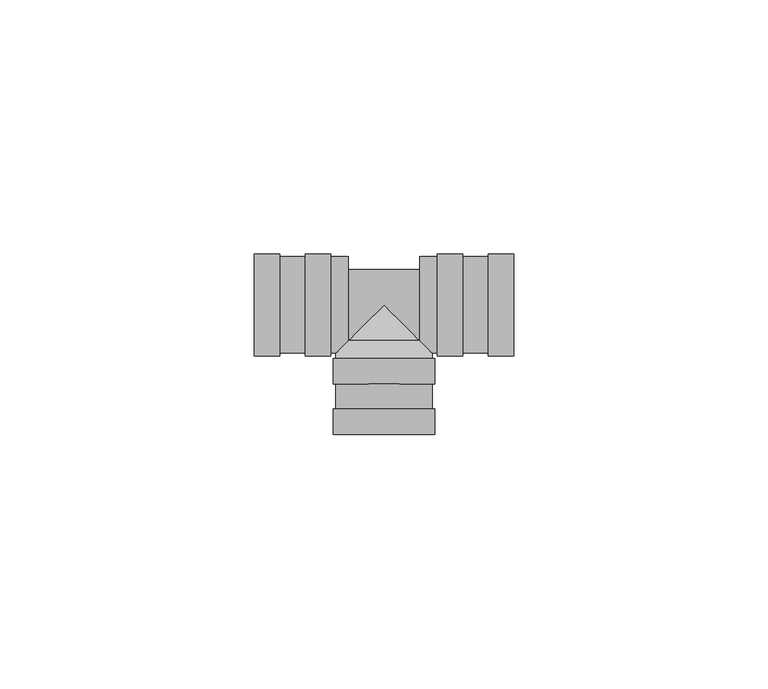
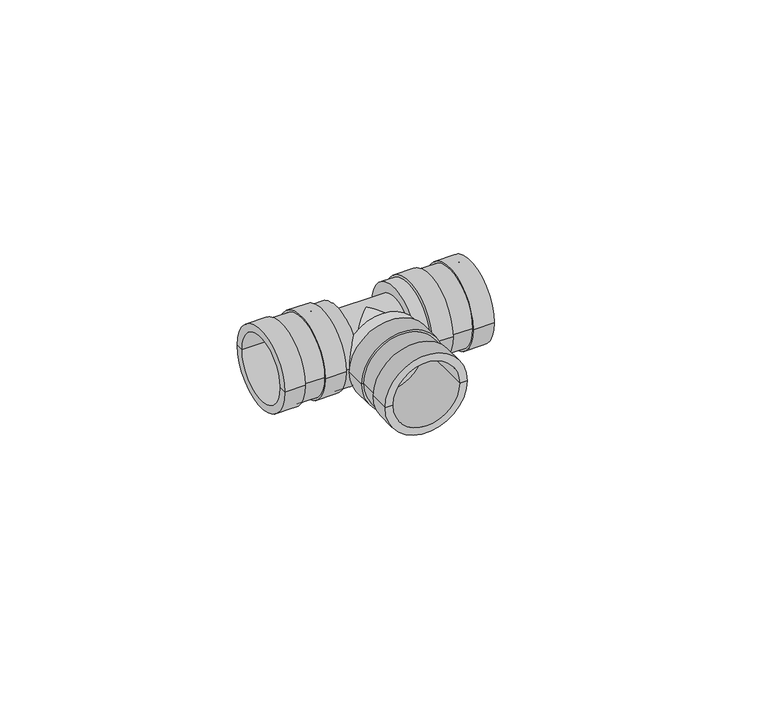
"""IFC4 building model written with IfcOpenShell, lengths in millimetres: pipe fitting geometry, Astra - Tê - KT : Astra - Tê - KT."""

import ifcopenshell
import ifcopenshell.guid

model = None  # the IFC model being written
_history = None  # IfcOwnerHistory: only IFC2X3 demands one
_inside = {}  # id of a spatial element -> (the spatial element, [elements in it])
_under = {}  # id of a project, library or spatial element -> (it, [spatial elements below it])
_declared = {}  # id of a project -> (the project, [libraries it declares])
_typed = {}  # id of a type object -> (the type object, [elements of that type])
_made_of = {}  # id of a material, layer set ... -> (it, [elements and type objects made of it])


def new_model(schema):
    """Start an empty IFC model of exactly this schema.

    Asked for "IFC4X3", IfcOpenShell would pick the latest addendum, in which some entities
    have other attributes; the version numbers below select the first issue.
    IFC2X3 requires an IfcOwnerHistory on every rooted entity: one is made here for all.
    """
    global model, _history
    if schema == "IFC4X3":
        model = ifcopenshell.file(schema_version=(4, 3, 0, 0))
    else:
        model = ifcopenshell.file(schema=schema)
    _inside.clear()
    _under.clear()
    _declared.clear()
    _typed.clear()
    _made_of.clear()
    _history = None
    if model.schema == "IFC2X3":
        org = make("IfcOrganization", Name="unknown")
        user = make(
            "IfcPersonAndOrganization",
            ThePerson=make("IfcPerson", FamilyName="unknown"),
            TheOrganization=org,
        )
        app = make(
            "IfcApplication",
            ApplicationDeveloper=org,
            Version="unknown",
            ApplicationFullName="unknown",
            ApplicationIdentifier="unknown",
        )
        _history = make(
            "IfcOwnerHistory",
            OwningUser=user,
            OwningApplication=app,
            ChangeAction="ADDED",
            CreationDate=0,
        )
    return model


def make(cls, **values):
    """One entity of the class cls with the attributes given. An attribute that is None is left unset."""
    return model.create_entity(
        cls, **{name: value for name, value in values.items() if value is not None}
    )


def rooted(cls, **values):
    """An entity with a GlobalId (a new one), such as an element, a storey or a relation."""
    return make(cls, GlobalId=ifcopenshell.guid.new(), OwnerHistory=_history, **values)


def si_unit(unit_type, name, prefix=None):
    """IfcSIUnit, for example si_unit("LENGTHUNIT", "METRE", prefix="MILLI")."""
    return make("IfcSIUnit", UnitType=unit_type, Prefix=prefix, Name=name)


def assignment(units):
    """IfcUnitAssignment: the units of a project."""
    return None if units is None else make("IfcUnitAssignment", Units=units)


def point(xyz):
    """IfcCartesianPoint."""
    return None if xyz is None else make("IfcCartesianPoint", Coordinates=xyz)


def direction(xyz):
    """IfcDirection."""
    return None if xyz is None else make("IfcDirection", DirectionRatios=xyz)


def frame(location, z_axis=None, x_axis=None):
    """IfcAxis2Placement3D, a coordinate frame: its origin and axes. An axis left out is left unset."""
    return make(
        "IfcAxis2Placement3D",
        Location=point(location),
        Axis=direction(z_axis),
        RefDirection=direction(x_axis),
    )


def origin():
    """The frame at (0, 0, 0) with its axes left unset."""
    return frame((0.0, 0.0, 0.0))


def place(relative_to, where):
    """IfcLocalPlacement: puts the frame where relative to a parent placement (None: the world)."""
    return make(
        "IfcLocalPlacement", PlacementRelTo=relative_to, RelativePlacement=where
    )


def context(
    kind, dimensions, precision=None, world=None, true_north=None, identifier=None
):
    """IfcGeometricRepresentationContext, for example the 3D "Model" context."""
    return make(
        "IfcGeometricRepresentationContext",
        ContextIdentifier=identifier,
        ContextType=kind,
        CoordinateSpaceDimension=dimensions,
        Precision=precision,
        WorldCoordinateSystem=world,
        TrueNorth=true_north,
    )


def project(units=None, contexts=None):
    """IfcProject with its units and contexts."""
    return rooted(
        "IfcProject",
        Name="project",
        RepresentationContexts=contexts,
        UnitsInContext=assignment(units),
    )


def spatial(cls, under=None, at=None, **own):
    """A site, building, storey or space (cls), placed at a placement, below another one or the project."""
    s = rooted(cls, ObjectPlacement=at, **own)
    if under is not None:
        _under.setdefault(under.id(), (under, []))[1].append(s)
    return s


def polyline(points):
    """IfcPolyline through the points."""
    return make("IfcPolyline", Points=[point(p) for p in points])


def circle_curve(where, radius):
    """IfcCircle in the frame where."""
    return make("IfcCircle", Position=where, Radius=radius)


def ellipse_curve(where, semi_axis1, semi_axis2):
    """IfcEllipse in the frame where."""
    return make(
        "IfcEllipse", Position=where, SemiAxis1=semi_axis1, SemiAxis2=semi_axis2
    )


def shape(context_of_items, identifier, shape_type, items):
    """IfcShapeRepresentation: the items that make up one representation, for example the "Body"."""
    return make(
        "IfcShapeRepresentation",
        ContextOfItems=context_of_items,
        RepresentationIdentifier=identifier,
        RepresentationType=shape_type,
        Items=items,
    )


def source(mapping_origin, context_of_items, identifier, shape_type, items):
    """IfcRepresentationMap: a shape defined once, which mapped items show again and again."""
    return make(
        "IfcRepresentationMap",
        MappingOrigin=mapping_origin,
        MappedRepresentation=shape(context_of_items, identifier, shape_type, items),
    )


def transform(
    local_origin,
    x_axis=None,
    y_axis=None,
    z_axis=None,
    scale=None,
    scale2=None,
    scale3=None,
    uniform=True,
):
    """IfcCartesianTransformationOperator3D, or its non-uniform kind. x_axis, y_axis, z_axis: its Axis1, 2, 3."""
    if uniform:
        return make(
            "IfcCartesianTransformationOperator3D",
            Axis1=direction(x_axis),
            Axis2=direction(y_axis),
            LocalOrigin=point(local_origin),
            Scale=scale,
            Axis3=direction(z_axis),
        )
    return make(
        "IfcCartesianTransformationOperator3DnonUniform",
        Axis1=direction(x_axis),
        Axis2=direction(y_axis),
        LocalOrigin=point(local_origin),
        Scale=scale,
        Axis3=direction(z_axis),
        Scale2=scale2,
        Scale3=scale3,
    )


def mapped(mapping_source, mapping_target):
    """IfcMappedItem: shows the shape of a source again, moved by a transform."""
    return make(
        "IfcMappedItem", MappingSource=mapping_source, MappingTarget=mapping_target
    )


def made_of(thing, what):
    """Note that an element or type object is made of a material, layer set ...; save() writes the relation."""
    if what is not None:
        _made_of.setdefault(what.id(), (what, []))[1].append(thing)
    return thing


def element(
    cls,
    number,
    at=None,
    inside=None,
    cuts=None,
    type_object=None,
    material=None,
    context=None,
    identifier="Body",
    shape_type=None,
    held_by="IfcProductDefinitionShape",
    body=None,
    shapes=None,
    **own,
):
    """One element of the class cls, such as IfcWall. Its Tag is "e" and its number.

    at: its placement. inside: the storey or other place that contains it. cuts: it is an
    opening in that element (IfcRelVoidsElement). A single representation is given by context,
    identifier, shape_type and body (its items); several are given by shapes. held_by: the class
    of the entity that holds the representations. save() writes the other relations.
    """
    e = rooted(cls, Tag="e%d" % number, ObjectPlacement=at, **own)
    if body is not None:
        shapes = [shape(context, identifier, shape_type, body)]
    if shapes is not None:
        e.Representation = make(held_by, Representations=shapes)
    if inside is not None:
        _inside.setdefault(inside.id(), (inside, []))[1].append(e)
    if cuts is not None:
        rooted(
            "IfcRelVoidsElement", RelatingBuildingElement=cuts, RelatedOpeningElement=e
        )
    if type_object is not None:
        _typed.setdefault(type_object.id(), (type_object, []))[1].append(e)
    return made_of(e, material)


def aggregate(whole, parts):
    """IfcRelAggregates: a whole, such as a stair, and the parts it consists of."""
    return rooted("IfcRelAggregates", RelatingObject=whole, RelatedObjects=parts)


def save(model, path):
    """Write the relations noted so far, then the file.

    IfcRelAggregates (storeys below a building ...), IfcRelContainedInSpatialStructure (elements
    in a storey), IfcRelDefinesByType, IfcRelAssociatesMaterial and IfcRelDeclares: one each for
    every whole, place, type object, material and project.
    """
    for whole, parts in _under.values():
        aggregate(whole, parts)
    for where, things in _inside.values():
        rooted(
            "IfcRelContainedInSpatialStructure",
            RelatedElements=things,
            RelatingStructure=where,
        )
    for kind, things in _typed.values():
        rooted("IfcRelDefinesByType", RelatedObjects=things, RelatingType=kind)
    for what, things in _made_of.values():
        rooted("IfcRelAssociatesMaterial", RelatedObjects=things, RelatingMaterial=what)
    for by, libraries in _declared.values():
        rooted("IfcRelDeclares", RelatingContext=by, RelatedDefinitions=libraries)
    model.write(path)


def plane_surface(at):
    """IfcPlane: the flat surface through the origin of the frame at, square to its z axis."""
    return make("IfcPlane", Position=at)


def cylinder_surface(at, radius):
    """IfcCylindricalSurface: all points at the distance radius from the z axis of the frame at."""
    return make("IfcCylindricalSurface", Position=at, Radius=radius)


def revolved_surface(curve, axis_point, axis_direction):
    """IfcSurfaceOfRevolution: the curve turned about the line through axis_point along axis_direction."""
    return make(
        "IfcSurfaceOfRevolution",
        SweptCurve=make("IfcArbitraryOpenProfileDef", ProfileType="CURVE", Curve=curve),
        AxisPosition=make("IfcAxis1Placement", Location=point(axis_point), Axis=direction(axis_direction)),
    )


def advanced_brep(points, edges, surfaces, faces):
    """IfcAdvancedBrep: a solid bounded by faces that lie on surfaces and meet in shared edges.

    An edge is (start, end): straight between two places in points (the first is 0);
    or (start, end, curve); or (start, end, curve, False) where it runs against its curve.
    A face is (place in surfaces, loops), or (place, loops, False) where it looks against
    its surface's normal. A loop lists edges by number (the first is 1), with a minus sign
    where the edge is run from its end to its start. The first loop is the outer one.
    """
    corners = [point(p) for p in points]
    vertices = [make("IfcVertexPoint", VertexGeometry=c) for c in corners]
    made = []
    for start, end, *more in edges:
        made.append(
            make(
                "IfcEdgeCurve",
                EdgeStart=vertices[start],
                EdgeEnd=vertices[end],
                EdgeGeometry=more[0] if more else make("IfcPolyline", Points=[corners[start], corners[end]]),
                SameSense=more[1] if len(more) > 1 else True,
            )
        )
    hull = []
    for where, loops, *sense in faces:
        bounds = []
        for j, loop in enumerate(loops):
            ring = [make("IfcOrientedEdge", EdgeElement=made[abs(k) - 1], Orientation=k > 0) for k in loop]
            bounds.append(
                make(
                    "IfcFaceOuterBound" if j == 0 else "IfcFaceBound",
                    Bound=make("IfcEdgeLoop", EdgeList=ring),
                    Orientation=True,
                )
            )
        hull.append(make("IfcAdvancedFace", Bounds=bounds, FaceSurface=surfaces[where], SameSense=sense[0] if sense else True))
    return make("IfcAdvancedBrep", Outer=make("IfcClosedShell", CfsFaces=hull))


def pipe_fitting_e5ea418e(model_context):
    return source(origin(), model_context, "Body", "AdvancedBrep", [
        advanced_brep(
        [(-25.5, -8.15, 0.0), (-25.5, 8.15, 0.0), (-25.5, 10.0, 0.0), (-25.5, -10.0, 0.0), (-10.5, -8.15, 0.0), (-10.5, 8.15, 0.0), (-10.5, -10.0, 0.0), (-10.5, 10.0, 0.0), (-20.5, 10.0, 0.0), (-20.5, -10.0, 0.0), (-15.5, -10.0, 0.0), (-15.5, 10.0, 0.0), (-20.5, 9.5, 0.0), (-20.5, -9.5, 0.0), (-15.5, 9.5, 0.0), (-15.5, -9.5, 0.0)],
        [
            (0, 1, circle_curve(frame((-25.5, 0.0, 0.0), z_axis=(1.0, 0.0, 0.0), x_axis=(0.0, 1.0, 0.0)), 8.15)),
            (1, 2),
            (2, 3, circle_curve(frame((-25.5, 0.0, 0.0), z_axis=(-1.0, 0.0, 0.0), x_axis=(0.0, 1.0, 0.0)), 10.0)),
            (3, 0),
            (1, 0, circle_curve(frame((-25.5, 0.0, 0.0), z_axis=(1.0, 0.0, 0.0), x_axis=(0.0, 1.0, 0.0)), 8.15)),
            (3, 2, circle_curve(frame((-25.5, 0.0, 0.0), z_axis=(-1.0, 0.0, 0.0), x_axis=(0.0, 1.0, 0.0)), 10.0)),
            (0, 4),
            (4, 5, circle_curve(frame((-10.5, 0.0, 0.0), z_axis=(1.0, 0.0, 0.0), x_axis=(0.0, 1.0, 0.0)), 8.15)),
            (5, 1),
            (5, 4, circle_curve(frame((-10.5, 0.0, 0.0), z_axis=(1.0, 0.0, 0.0), x_axis=(0.0, 1.0, 0.0)), 8.15)),
            (4, 6),
            (6, 7, circle_curve(frame((-10.5, 0.0, 0.0), z_axis=(1.0, 0.0, 0.0), x_axis=(0.0, 1.0, 0.0)), 10.0)),
            (7, 5),
            (7, 6, circle_curve(frame((-10.5, 0.0, 0.0), z_axis=(1.0, 0.0, 0.0), x_axis=(0.0, 1.0, 0.0)), 10.0)),
            (2, 8),
            (8, 9, circle_curve(frame((-20.5, 0.0, 0.0), z_axis=(-1.0, 0.0, 0.0), x_axis=(0.0, 1.0, 0.0)), 10.0)),
            (9, 3),
            (6, 10),
            (10, 11, circle_curve(frame((-15.5, 0.0, 0.0), z_axis=(1.0, 0.0, 0.0), x_axis=(0.0, 1.0, 0.0)), 10.0)),
            (11, 7),
            (9, 8, circle_curve(frame((-20.5, 0.0, 0.0), z_axis=(-1.0, 0.0, 0.0), x_axis=(0.0, 1.0, 0.0)), 10.0)),
            (11, 10, circle_curve(frame((-15.5, 0.0, 0.0), z_axis=(1.0, 0.0, 0.0), x_axis=(0.0, 1.0, 0.0)), 10.0)),
            (12, 13, circle_curve(frame((-20.5, 0.0, 0.0), z_axis=(-1.0, 0.0, 0.0), x_axis=(0.0, 1.0, 0.0)), 9.5)),
            (13, 9),
            (8, 12),
            (13, 12, circle_curve(frame((-20.5, 0.0, 0.0), z_axis=(-1.0, 0.0, 0.0), x_axis=(0.0, 1.0, 0.0)), 9.5)),
            (12, 14),
            (14, 15, circle_curve(frame((-15.5, 0.0, 0.0), z_axis=(-1.0, 0.0, 0.0), x_axis=(0.0, 1.0, 0.0)), 9.5)),
            (15, 13),
            (15, 14, circle_curve(frame((-15.5, 0.0, 0.0), z_axis=(-1.0, 0.0, 0.0), x_axis=(0.0, 1.0, 0.0)), 9.5)),
            (14, 11),
            (10, 15),
        ],
        [
            plane_surface(frame((-25.5, 0.0, 0.0), z_axis=(-1.0, 0.0, 0.0), x_axis=(0.0, 1.0, 0.0))),
            revolved_surface(polyline([(-25.5, 8.15, 0.0), (-10.5, 8.15, 0.0)]), (-25.5, 0.0, 0.0), (-1.0, 0.0, 0.0)),
            plane_surface(frame((-10.5, 0.0, 0.0), z_axis=(1.0, 0.0, 0.0), x_axis=(0.0, 1.0, 0.0))),
            cylinder_surface(frame((-25.5, 0.0, 0.0), z_axis=(-1.0, 0.0, 0.0), x_axis=(0.0, 1.0, 0.0)), 10.0),
            plane_surface(frame((-20.5, 0.0, 0.0), z_axis=(1.0, 0.0, 0.0), x_axis=(0.0, 1.0, 0.0))),
            cylinder_surface(frame((-25.5, 0.0, 0.0), z_axis=(-1.0, 0.0, 0.0), x_axis=(0.0, 1.0, 0.0)), 9.5),
            plane_surface(frame((-15.5, 0.0, 0.0), z_axis=(-1.0, 0.0, 0.0), x_axis=(0.0, 1.0, 0.0))),
        ],
        [
            (0, [[1, 2, 3, 4]]),
            (0, [[-2, 5, -4, 6]]),
            (1, [[-1, 7, 8, 9]]),
            (1, [[-5, -9, 10, -7]]),
            (2, [[-8, 11, 12, 13]]),
            (2, [[-10, -13, 14, -11]]),
            (3, [[-3, 15, 16, 17]]),
            (3, [[-12, 18, 19, 20]]),
            (3, [[-6, -17, 21, -15]]),
            (3, [[-14, -20, 22, -18]]),
            (4, [[23, 24, -16, 25]]),
            (4, [[26, -25, -21, -24]]),
            (5, [[-23, 27, 28, 29]]),
            (5, [[-26, -29, 30, -27]]),
            (6, [[-28, 31, -19, 32]]),
            (6, [[-30, -32, -22, -31]]),
        ],
    ),
        advanced_brep(
        [(10.5, -8.15, 0.0), (10.5, 8.15, 0.0), (10.5, 10.0, 0.0), (10.5, -10.0, 0.0), (25.5, -8.15, 0.0), (25.5, 8.15, 0.0), (25.5, -10.0, 0.0), (25.5, 10.0, 0.0), (15.5, 10.0, 0.0), (15.5, -10.0, 0.0), (20.5, -10.0, 0.0), (20.5, 10.0, 0.0), (15.5, 9.5, 0.0), (15.5, -9.5, 0.0), (20.5, 9.5, 0.0), (20.5, -9.5, 0.0)],
        [
            (0, 1, circle_curve(frame((10.5, 0.0, 0.0), z_axis=(1.0, 0.0, 0.0), x_axis=(0.0, 1.0, 0.0)), 8.15)),
            (1, 2),
            (2, 3, circle_curve(frame((10.5, 0.0, 0.0), z_axis=(-1.0, 0.0, 0.0), x_axis=(0.0, 1.0, 0.0)), 10.0)),
            (3, 0),
            (1, 0, circle_curve(frame((10.5, 0.0, 0.0), z_axis=(1.0, 0.0, 0.0), x_axis=(0.0, 1.0, 0.0)), 8.15)),
            (3, 2, circle_curve(frame((10.5, 0.0, 0.0), z_axis=(-1.0, 0.0, 0.0), x_axis=(0.0, 1.0, 0.0)), 10.0)),
            (0, 4),
            (4, 5, circle_curve(frame((25.5, 0.0, 0.0), z_axis=(1.0, 0.0, 0.0), x_axis=(0.0, 1.0, 0.0)), 8.15)),
            (5, 1),
            (5, 4, circle_curve(frame((25.5, 0.0, 0.0), z_axis=(1.0, 0.0, 0.0), x_axis=(0.0, 1.0, 0.0)), 8.15)),
            (4, 6),
            (6, 7, circle_curve(frame((25.5, 0.0, 0.0), z_axis=(1.0, 0.0, 0.0), x_axis=(0.0, 1.0, 0.0)), 10.0)),
            (7, 5),
            (7, 6, circle_curve(frame((25.5, 0.0, 0.0), z_axis=(1.0, 0.0, 0.0), x_axis=(0.0, 1.0, 0.0)), 10.0)),
            (2, 8),
            (8, 9, circle_curve(frame((15.5, 0.0, 0.0), z_axis=(-1.0, 0.0, 0.0), x_axis=(0.0, 1.0, 0.0)), 10.0)),
            (9, 3),
            (6, 10),
            (10, 11, circle_curve(frame((20.5, 0.0, 0.0), z_axis=(1.0, 0.0, 0.0), x_axis=(0.0, 1.0, 0.0)), 10.0)),
            (11, 7),
            (9, 8, circle_curve(frame((15.5, 0.0, 0.0), z_axis=(-1.0, 0.0, 0.0), x_axis=(0.0, 1.0, 0.0)), 10.0)),
            (11, 10, circle_curve(frame((20.5, 0.0, 0.0), z_axis=(1.0, 0.0, 0.0), x_axis=(0.0, 1.0, 0.0)), 10.0)),
            (12, 13, circle_curve(frame((15.5, 0.0, 0.0), z_axis=(-1.0, 0.0, 0.0), x_axis=(0.0, 1.0, 0.0)), 9.5)),
            (13, 9),
            (8, 12),
            (13, 12, circle_curve(frame((15.5, 0.0, 0.0), z_axis=(-1.0, 0.0, 0.0), x_axis=(0.0, 1.0, 0.0)), 9.5)),
            (12, 14),
            (14, 15, circle_curve(frame((20.5, 0.0, 0.0), z_axis=(-1.0, 0.0, 0.0), x_axis=(0.0, 1.0, 0.0)), 9.5)),
            (15, 13),
            (15, 14, circle_curve(frame((20.5, 0.0, 0.0), z_axis=(-1.0, 0.0, 0.0), x_axis=(0.0, 1.0, 0.0)), 9.5)),
            (14, 11),
            (10, 15),
        ],
        [
            plane_surface(frame((10.5, 0.0, 0.0), z_axis=(-1.0, 0.0, 0.0), x_axis=(0.0, 1.0, 0.0))),
            revolved_surface(polyline([(10.5, 8.15, 0.0), (25.5, 8.15, 0.0)]), (10.5, 0.0, 0.0), (-1.0, 0.0, 0.0)),
            plane_surface(frame((25.5, 0.0, 0.0), z_axis=(1.0, 0.0, 0.0), x_axis=(0.0, 1.0, 0.0))),
            cylinder_surface(frame((10.5, 0.0, 0.0), z_axis=(-1.0, 0.0, 0.0), x_axis=(0.0, 1.0, 0.0)), 10.0),
            plane_surface(frame((15.5, 0.0, 0.0), z_axis=(1.0, 0.0, 0.0), x_axis=(0.0, 1.0, 0.0))),
            cylinder_surface(frame((10.5, 0.0, 0.0), z_axis=(-1.0, 0.0, 0.0), x_axis=(0.0, 1.0, 0.0)), 9.5),
            plane_surface(frame((20.5, 0.0, 0.0), z_axis=(-1.0, 0.0, 0.0), x_axis=(0.0, 1.0, 0.0))),
        ],
        [
            (0, [[1, 2, 3, 4]]),
            (0, [[-2, 5, -4, 6]]),
            (1, [[-1, 7, 8, 9]]),
            (1, [[-5, -9, 10, -7]]),
            (2, [[-8, 11, 12, 13]]),
            (2, [[-10, -13, 14, -11]]),
            (3, [[-3, 15, 16, 17]]),
            (3, [[-12, 18, 19, 20]]),
            (3, [[-6, -17, 21, -15]]),
            (3, [[-14, -20, 22, -18]]),
            (4, [[23, 24, -16, 25]]),
            (4, [[26, -25, -21, -24]]),
            (5, [[-23, 27, 28, 29]]),
            (5, [[-26, -29, 30, -27]]),
            (6, [[-28, 31, -19, 32]]),
            (6, [[-30, -32, -22, -31]]),
        ],
    ),
        advanced_brep(
        [(-8.15, -10.5, 0.0), (8.15, -10.5, 0.0), (10.0, -10.5, 0.0), (-10.0, -10.5, 0.0), (-8.15, -25.5, 0.0), (8.15, -25.5, 0.0), (-10.0, -25.5, 0.0), (10.0, -25.5, 0.0), (10.0, -15.5, 0.0), (-10.0, -15.5, 0.0), (-10.0, -20.5, 0.0), (10.0, -20.5, 0.0), (9.5, -15.5, 0.0), (-9.5, -15.5, 0.0), (9.5, -20.5, 0.0), (-9.5, -20.5, 0.0)],
        [
            (0, 1, circle_curve(frame((0.0, -10.5, 0.0), z_axis=(0.0, -1.0, 0.0), x_axis=(1.0000000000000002, 0.0, 0.0)), 8.15)),
            (1, 2),
            (2, 3, circle_curve(frame((0.0, -10.5, 0.0), z_axis=(0.0, 1.0, 0.0), x_axis=(1.0000000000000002, 0.0, 0.0)), 10.0)),
            (3, 0),
            (1, 0, circle_curve(frame((0.0, -10.5, 0.0), z_axis=(0.0, -1.0, 0.0), x_axis=(1.0000000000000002, 0.0, 0.0)), 8.15)),
            (3, 2, circle_curve(frame((0.0, -10.5, 0.0), z_axis=(0.0, 1.0, 0.0), x_axis=(1.0000000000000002, 0.0, 0.0)), 10.0)),
            (0, 4),
            (4, 5, circle_curve(frame((0.0, -25.5, 0.0), z_axis=(0.0, -1.0, 0.0), x_axis=(1.0000000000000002, 0.0, 0.0)), 8.15)),
            (5, 1),
            (5, 4, circle_curve(frame((0.0, -25.5, 0.0), z_axis=(0.0, -1.0, 0.0), x_axis=(1.0000000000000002, 0.0, 0.0)), 8.15)),
            (4, 6),
            (6, 7, circle_curve(frame((0.0, -25.5, 0.0), z_axis=(0.0, -1.0, 0.0), x_axis=(1.0000000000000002, 0.0, 0.0)), 10.0)),
            (7, 5),
            (7, 6, circle_curve(frame((0.0, -25.5, 0.0), z_axis=(0.0, -1.0, 0.0), x_axis=(1.0000000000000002, 0.0, 0.0)), 10.0)),
            (2, 8),
            (8, 9, circle_curve(frame((0.0, -15.5, 0.0), z_axis=(0.0, 1.0, 0.0), x_axis=(1.0000000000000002, 0.0, 0.0)), 10.0)),
            (9, 3),
            (6, 10),
            (10, 11, circle_curve(frame((0.0, -20.5, 0.0), z_axis=(0.0, -1.0, 0.0), x_axis=(1.0000000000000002, 0.0, 0.0)), 10.0)),
            (11, 7),
            (9, 8, circle_curve(frame((0.0, -15.5, 0.0), z_axis=(0.0, 1.0, 0.0), x_axis=(1.0000000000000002, 0.0, 0.0)), 10.0)),
            (11, 10, circle_curve(frame((0.0, -20.5, 0.0), z_axis=(0.0, -1.0, 0.0), x_axis=(1.0000000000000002, 0.0, 0.0)), 10.0)),
            (12, 13, circle_curve(frame((0.0, -15.5, 0.0), z_axis=(0.0, 1.0, 0.0), x_axis=(1.0000000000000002, 0.0, 0.0)), 9.5)),
            (13, 9),
            (8, 12),
            (13, 12, circle_curve(frame((0.0, -15.5, 0.0), z_axis=(0.0, 1.0, 0.0), x_axis=(1.0000000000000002, 0.0, 0.0)), 9.5)),
            (12, 14),
            (14, 15, circle_curve(frame((0.0, -20.5, 0.0), z_axis=(0.0, 1.0, 0.0), x_axis=(1.0000000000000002, 0.0, 0.0)), 9.5)),
            (15, 13),
            (15, 14, circle_curve(frame((0.0, -20.5, 0.0), z_axis=(0.0, 1.0, 0.0), x_axis=(1.0000000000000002, 0.0, 0.0)), 9.5)),
            (14, 11),
            (10, 15),
        ],
        [
            plane_surface(frame((0.0, -10.5, 0.0), z_axis=(0.0, 1.0, 0.0), x_axis=(1.0, 0.0, 0.0))),
            revolved_surface(polyline([(8.150000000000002, -10.5, 0.0), (8.150000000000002, -25.500000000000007, 0.0)]), (0.0, -10.5, 0.0), (0.0, 1.0000000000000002, 0.0)),
            plane_surface(frame((0.0, -25.5, 0.0), z_axis=(0.0, -1.0, 0.0), x_axis=(1.0, 0.0, 0.0))),
            cylinder_surface(frame((0.0, -10.5, 0.0), z_axis=(0.0, 1.0000000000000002, 0.0), x_axis=(1.0000000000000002, 0.0, 0.0)), 10.0),
            plane_surface(frame((0.0, -15.5, 0.0), z_axis=(0.0, -1.0, 0.0), x_axis=(1.0, 0.0, 0.0))),
            cylinder_surface(frame((0.0, -10.5, 0.0), z_axis=(0.0, 1.0000000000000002, 0.0), x_axis=(1.0000000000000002, 0.0, 0.0)), 9.5),
            plane_surface(frame((0.0, -20.5, 0.0), z_axis=(0.0, 1.0, 0.0), x_axis=(1.0, 0.0, 0.0))),
        ],
        [
            (0, [[1, 2, 3, 4]]),
            (0, [[-2, 5, -4, 6]]),
            (1, [[-1, 7, 8, 9]]),
            (1, [[-5, -9, 10, -7]]),
            (2, [[-8, 11, 12, 13]]),
            (2, [[-10, -13, 14, -11]]),
            (3, [[-3, 15, 16, 17]]),
            (3, [[-12, 18, 19, 20]]),
            (3, [[-6, -17, 21, -15]]),
            (3, [[-14, -20, 22, -18]]),
            (4, [[23, 24, -16, 25]]),
            (4, [[26, -25, -21, -24]]),
            (5, [[-23, 27, 28, 29]]),
            (5, [[-26, -29, 30, -27]]),
            (6, [[-28, 31, -19, 32]]),
            (6, [[-30, -32, -22, -31]]),
        ],
    ),
        advanced_brep(
        [(-7.0, -7.0, 0.0), (-7.0, 7.0, 0.0), (7.0, 7.0, 0.0), (7.0, -7.0, 0.0), (0.0, 0.0, -7.0), (-7.0, -7.0, 0.0), (0.0, 0.0, 7.0), (7.0, -7.0, 0.0), (-10.5, -9.5, 0.0), (-10.5, 9.5, 0.0), (-7.0, 9.5, 0.0), (-7.0, -7.0, -6.4226163), (-9.5, -9.5, 0.0), (-7.0, -7.0, 6.4226163), (-10.5, 0.0, 0.0), (10.5, -9.5, 0.0), (10.5, 9.5, 0.0), (10.5, 0.0, 0.0), (9.5, -9.5, 0.0), (7.0, -7.0, -6.4226163), (7.0, 9.5, 0.0), (7.0, -7.0, 6.4226163), (9.5, -10.5, 0.0), (-9.5, -10.5, 0.0), (0.0, -10.5, 0.0)],
        [
            (0, 1, circle_curve(frame((-7.0, 0.0, 0.0), z_axis=(1.0, 0.0, 0.0), x_axis=(0.0, 1.0, 0.0)), 7.0)),
            (1, 2),
            (2, 3, circle_curve(frame((7.0, 0.0, 0.0), z_axis=(-1.0, 0.0, 0.0), x_axis=(0.0, 1.0, 0.0)), 7.0)),
            (3, 4, ellipse_curve(frame((0.0, 0.0, 0.0), z_axis=(0.7071067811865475, 0.7071067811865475, 0.0), x_axis=(-0.7071067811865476, 0.7071067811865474, 0.0)), 9.8994949, 7.0)),
            (4, 0, ellipse_curve(frame((0.0, 0.0, 0.0), z_axis=(-0.7071067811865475, 0.7071067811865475, 0.0), x_axis=(-0.7071067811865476, -0.7071067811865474, 0.0)), 9.8994949, 7.0)),
            (1, 5, circle_curve(frame((-7.0, 0.0, 0.0), z_axis=(1.0, 0.0, 0.0), x_axis=(0.0, 1.0, 0.0)), 7.0)),
            (5, 6, ellipse_curve(frame((0.0, 0.0, 0.0), z_axis=(-0.7071067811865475, 0.7071067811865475, 0.0), x_axis=(-0.7071067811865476, -0.7071067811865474, 0.0)), 9.8994949, 7.0)),
            (6, 7, ellipse_curve(frame((0.0, 0.0, 0.0), z_axis=(0.7071067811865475, 0.7071067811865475, 0.0), x_axis=(-0.7071067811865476, 0.7071067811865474, 0.0)), 9.8994949, 7.0)),
            (7, 2, circle_curve(frame((7.0, 0.0, 0.0), z_axis=(-1.0, 0.0, 0.0), x_axis=(0.0, 1.0, 0.0)), 7.0)),
            (8, 9, circle_curve(frame((-10.5, 0.0, 0.0), z_axis=(1.0, 0.0, 0.0), x_axis=(0.0, 1.0, 0.0)), 9.5)),
            (9, 10),
            (10, 11, circle_curve(frame((-7.0, 0.0, 0.0), z_axis=(-1.0, 0.0, 0.0), x_axis=(0.0, 1.0, 0.0)), 9.5)),
            (11, 12, ellipse_curve(frame((0.0, 0.0, 0.0), z_axis=(-0.7071067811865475, 0.7071067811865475, 0.0), x_axis=(-0.7071067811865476, -0.7071067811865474, 0.0)), 13.4350288, 9.5)),
            (12, 8),
            (9, 8, circle_curve(frame((-10.5, 0.0, 0.0), z_axis=(1.0, 0.0, 0.0), x_axis=(0.0, 1.0, 0.0)), 9.5)),
            (12, 13, ellipse_curve(frame((0.0, 0.0, 0.0), z_axis=(-0.7071067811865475, 0.7071067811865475, 0.0), x_axis=(-0.7071067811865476, -0.7071067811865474, 0.0)), 13.4350288, 9.5)),
            (13, 10, circle_curve(frame((-7.0, 0.0, 0.0), z_axis=(-1.0, 0.0, 0.0), x_axis=(0.0, 1.0, 0.0)), 9.5)),
            (8, 14),
            (14, 9),
            (15, 16, circle_curve(frame((10.5, 0.0, 0.0), z_axis=(1.0, 0.0, 0.0), x_axis=(0.0, 1.0, 0.0)), 9.5)),
            (16, 17),
            (17, 15),
            (16, 15, circle_curve(frame((10.5, 0.0, 0.0), z_axis=(1.0, 0.0, 0.0), x_axis=(0.0, 1.0, 0.0)), 9.5)),
            (15, 18),
            (18, 19, ellipse_curve(frame((0.0, 0.0, 0.0), z_axis=(0.7071067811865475, 0.7071067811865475, 0.0), x_axis=(-0.7071067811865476, 0.7071067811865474, 0.0)), 13.4350288, 9.5)),
            (19, 20, circle_curve(frame((7.0, 0.0, 0.0), z_axis=(1.0, 0.0, 0.0), x_axis=(0.0, 1.0, 0.0)), 9.5)),
            (20, 16),
            (20, 21, circle_curve(frame((7.0, 0.0, 0.0), z_axis=(1.0, 0.0, 0.0), x_axis=(0.0, 1.0, 0.0)), 9.5)),
            (21, 18, ellipse_curve(frame((0.0, 0.0, 0.0), z_axis=(0.7071067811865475, 0.7071067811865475, 0.0), x_axis=(-0.7071067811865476, 0.7071067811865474, 0.0)), 13.4350288, 9.5)),
            (0, 11),
            (10, 1),
            (13, 5),
            (2, 20),
            (19, 3),
            (7, 21),
            (3, 0, circle_curve(frame((0.0, -7.0, 0.0), z_axis=(0.0, 1.0, 0.0), x_axis=(-1.0, 0.0, 0.0)), 7.0)),
            (5, 7, circle_curve(frame((0.0, -7.0, 0.0), z_axis=(0.0, 1.0, 0.0), x_axis=(-1.0, 0.0, 0.0)), 7.0)),
            (22, 23, circle_curve(frame((0.0, -10.5, 0.0), z_axis=(0.0, 1.0, 0.0), x_axis=(-1.0, 0.0, 0.0)), 9.5)),
            (23, 12),
            (11, 19, circle_curve(frame((0.0, -7.0, 0.0), z_axis=(0.0, -1.0, 0.0), x_axis=(-1.0, 0.0, 0.0)), 9.5)),
            (18, 22),
            (23, 22, circle_curve(frame((0.0, -10.5, 0.0), z_axis=(0.0, 1.0, 0.0), x_axis=(-1.0, 0.0, 0.0)), 9.5)),
            (21, 13, circle_curve(frame((0.0, -7.0, 0.0), z_axis=(0.0, -1.0, 0.0), x_axis=(-1.0, 0.0, 0.0)), 9.5)),
            (22, 24),
            (24, 23),
        ],
        [
            cylinder_surface(frame((-9.5, 0.0, 0.0), z_axis=(-1.0, 0.0, 0.0), x_axis=(0.0, 1.0, 0.0)), 7.0),
            cylinder_surface(frame((-9.5, 0.0, 0.0), z_axis=(-1.0, 0.0, 0.0), x_axis=(0.0, 1.0, 0.0)), 9.5),
            plane_surface(frame((-10.5, 0.0, 0.0), z_axis=(-1.0, 0.0, 0.0), x_axis=(0.0, 1.0, 0.0))),
            plane_surface(frame((10.5, 0.0, 0.0), z_axis=(1.0, 0.0, 0.0), x_axis=(0.0, 1.0, 0.0))),
            plane_surface(frame((-7.0, 0.0, 0.0), z_axis=(1.0, 0.0, 0.0), x_axis=(0.0, 1.0, 0.0))),
            plane_surface(frame((7.0, 0.0, 0.0), z_axis=(-1.0, 0.0, 0.0), x_axis=(0.0, 1.0, 0.0))),
            cylinder_surface(frame((0.0, 0.0, 0.0), z_axis=(0.0, -1.0, 0.0), x_axis=(-1.0, 0.0, 0.0)), 7.0),
            cylinder_surface(frame((0.0, 0.0, 0.0), z_axis=(0.0, -1.0, 0.0), x_axis=(-1.0, 0.0, 0.0)), 9.5),
            plane_surface(frame((0.0, -10.5, 0.0), z_axis=(0.0, -1.0, 0.0), x_axis=(-1.0, 0.0, 0.0))),
            plane_surface(frame((0.0, -7.0, 0.0), z_axis=(0.0, 1.0, 0.0), x_axis=(-1.0, 0.0, 0.0))),
        ],
        [
            (0, [[1, 2, 3, 4, 5]]),
            (0, [[-2, 6, 7, 8, 9]]),
            (1, [[10, 11, 12, 13, 14]]),
            (1, [[-11, 15, -14, 16, 17]]),
            (2, [[-10, 18, 19]]),
            (2, [[-15, -19, -18]]),
            (3, [[20, 21, 22]]),
            (3, [[-21, 23, -22]]),
            (1, [[-20, 24, 25, 26, 27]]),
            (1, [[-23, -27, 28, 29, -24]]),
            (4, [[-1, 30, -12, 31]]),
            (4, [[-6, -31, -17, 32]]),
            (5, [[-3, 33, -26, 34]]),
            (5, [[-9, 35, -28, -33]]),
            (6, [[36, -5, -4]]),
            (6, [[37, -8, -7]]),
            (7, [[38, 39, -13, 40, -25, 41]]),
            (7, [[42, -41, -29, 43, -16, -39]]),
            (8, [[-38, 44, 45]]),
            (8, [[-42, -45, -44]]),
            (9, [[-36, -34, -40, -30]]),
            (9, [[-37, -32, -43, -35]]),
        ],
    ),
    ])


if __name__ == "__main__":
    model = new_model("IFC4")
    model_context = context("Model", 3, world=origin())
    ifc_project = project(units=[si_unit("LENGTHUNIT", "METRE", prefix="MILLI")], contexts=[model_context])
    site = spatial("IfcSite", under=ifc_project)
    building = spatial("IfcBuilding", under=site)
    placement = place(None, origin())
    pipe_fitting_shape = pipe_fitting_e5ea418e(model_context)
    element("IfcPipeFitting", 1, ObjectType="Astra - Tê - KT : Astra - Tê - KT", at=placement, inside=building, context=model_context, shape_type="MappedRepresentation", body=[
        mapped(pipe_fitting_shape, transform((0.0, 0.0, 0.0), x_axis=(1.0, 0.0, 0.0), y_axis=(0.0, 1.0, 0.0), z_axis=(0.0, 0.0, 1.0))),
    ])
    save(model, "model.ifc")
